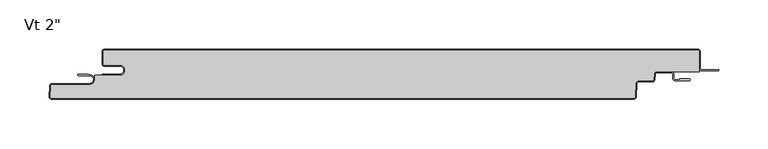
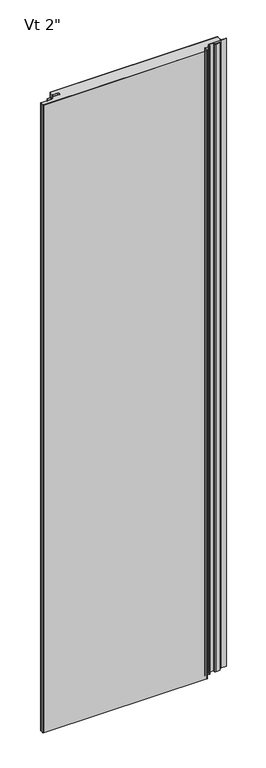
"""IFC4 building model written with IfcOpenShell, lengths in millimetres: plate geometry."""

from ifc_helpers import new_model, si_unit, point, frame, frame_2d, origin, origin_with_axes, place, context, project, spatial, polyline, circle_curve, ellipse_curve, trimmed, segment, composite_curve, outline, extrude, source, transform, mapped, element, save
from ifc_brep_helpers import plane_surface, cylinder_surface, revolved_surface, extruded_surface, advanced_brep


def plate_8a14e245(model_context):
    return source(origin(), model_context, "Body", "SolidModel", [
        extrude(outline(composite_curve([segment(trimmed(circle_curve(frame_2d((259.7683457, -25.4)), 2.5875), [point((259.7683457, -22.8125))], [point((257.1843918, -25.2645807))], True, "CARTESIAN"), True, "CONTINUOUS"), segment(polyline([(257.1843918, -25.2645807), (256.8823155, -31.028539)]), True, "CONTINUOUS"), segment(trimmed(circle_curve(frame_2d((255.5029585, -30.95625)), 1.38125), [point((256.8823155, -31.028539))], [point((255.5029585, -32.3375))], False, "CARTESIAN"), True, "CONTINUOUS"), segment(polyline([(255.5029585, -32.3375), (241.3323847, -32.3375)]), True, "CONTINUOUS"), segment(trimmed(circle_curve(frame_2d((241.3323847, -34.925)), 2.5875), [point((241.3323847, -32.3375))], [point((238.7484307, -34.7895807))], True, "CARTESIAN"), True, "CONTINUOUS"), segment(polyline([(238.7484307, -34.7895807), (238.0303677, -48.491039)]), True, "CONTINUOUS"), segment(trimmed(circle_curve(frame_2d((236.6510107, -48.41875)), 1.38125), [point((238.0303677, -48.491039))], [point((236.6510107, -49.8))], False, "CARTESIAN"), True, "CONTINUOUS"), segment(polyline([(236.6510107, -49.8), (-355.4656861, -49.8)]), True, "CONTINUOUS"), segment(trimmed(circle_curve(frame_2d((-355.4656861, -48.41875)), 1.38125), [point((-355.4656861, -49.8))], [point((-356.8450431, -48.346461))], False, "CARTESIAN"), True, "CONTINUOUS"), segment(polyline([(-356.8450431, -48.346461), (-356.2626617, -37.233961)]), True, "CONTINUOUS"), segment(trimmed(circle_curve(frame_2d((-354.8833046, -37.30625)), 1.38125), [point((-356.2626617, -37.233961))], [point((-354.8833046, -35.925))], False, "CARTESIAN"), True, "CONTINUOUS"), segment(polyline([(-354.8833046, -35.925), (-316.7, -35.925)]), True, "CONTINUOUS"), segment(trimmed(circle_curve(frame_2d((-316.7, -30.95625)), 4.96875), [point((-316.7, -35.925))], [point((-311.73125, -30.95625))], True, "CARTESIAN"), True, "CONTINUOUS"), segment(polyline([(-311.73125, -30.95625), (-311.73125, -26.4), (-285.74375, -26.4)]), True, "CONTINUOUS"), segment(trimmed(circle_curve(frame_2d((-285.74375, -21.43125)), 4.96875), [point((-285.74375, -26.4))], [point((-285.74375, -16.4625))], True, "CARTESIAN"), True, "CONTINUOUS"), segment(polyline([(-285.74375, -16.4625), (-301.61875, -16.4625)]), True, "CONTINUOUS"), segment(trimmed(circle_curve(frame_2d((-301.61875, -15.08125)), 1.38125), [point((-301.61875, -16.4625))], [point((-303.0, -15.08125))], False, "CARTESIAN"), True, "CONTINUOUS"), segment(polyline([(-303.0, -15.08125), (-303.0, -2.38125)]), True, "CONTINUOUS"), segment(trimmed(circle_curve(frame_2d((-301.61875, -2.38125)), 1.38125), [point((-303.0, -2.38125))], [point((-301.61875, -1.0))], False, "CARTESIAN"), True, "CONTINUOUS"), segment(polyline([(-301.61875, -1.0), (301.63125, -1.0)]), True, "CONTINUOUS"), segment(trimmed(circle_curve(frame_2d((301.63125, -2.38125)), 1.38125), [point((301.63125, -1.0))], [point((303.0125, -2.38125))], False, "CARTESIAN"), True, "CONTINUOUS"), segment(polyline([(303.0125, -2.38125), (303.0125, -22.8125), (259.7683457, -22.8125)]), True, "CONTINUOUS")], self_intersect=False)), origin_with_axes(), (0.0, 0.0, 1.0), 2400.0),
        extrude(outline(composite_curve([segment(polyline([(-304.0, -25.4), (-285.74375, -25.4)]), True, "CONTINUOUS"), segment(trimmed(circle_curve(frame_2d((-285.74375, -21.43125)), 3.96875), [point((-285.74375, -25.4))], [point((-285.74375, -17.4625))], True, "CARTESIAN"), True, "CONTINUOUS"), segment(polyline([(-285.74375, -17.4625), (-301.61875, -17.4625)]), True, "CONTINUOUS"), segment(trimmed(circle_curve(frame_2d((-301.61875, -15.08125)), 2.38125), [point((-301.61875, -17.4625))], [point((-304.0, -15.08125))], False, "CARTESIAN"), True, "CONTINUOUS"), segment(polyline([(-304.0, -15.08125), (-304.0, -2.38125)]), True, "CONTINUOUS"), segment(trimmed(circle_curve(frame_2d((-301.61875, -2.38125)), 2.38125), [point((-304.0, -2.38125))], [point((-301.61875, 0.0))], False, "CARTESIAN"), True, "CONTINUOUS"), segment(polyline([(-301.61875, 0.0), (301.63125, 0.0)]), True, "CONTINUOUS"), segment(trimmed(circle_curve(frame_2d((301.63125, -2.38125)), 2.38125), [point((301.63125, 0.0))], [point((304.0125, -2.38125))], False, "CARTESIAN"), True, "CONTINUOUS"), segment(polyline([(304.0125, -2.38125), (304.0125, -19.446875)]), True, "CONTINUOUS"), segment(trimmed(circle_curve(frame_2d((305.6, -19.446875)), 1.5875), [point((304.0125, -19.446875))], [point((305.6, -21.034375))], True, "CARTESIAN"), True, "CONTINUOUS"), segment(polyline([(305.6, -21.034375), (323.0625, -21.034375), (323.0625, -22.034375), (305.6, -22.034375)]), True, "CONTINUOUS"), segment(trimmed(circle_curve(frame_2d((305.6, -19.446875)), 2.5875), [point((305.6, -22.034375))], [point((303.0125, -19.446875))], False, "CARTESIAN"), True, "CONTINUOUS"), segment(polyline([(303.0125, -19.446875), (303.0125, -2.38125)]), True, "CONTINUOUS"), segment(trimmed(circle_curve(frame_2d((301.63125, -2.38125)), 1.38125), [point((303.0125, -2.38125))], [point((301.63125, -1.0))], True, "CARTESIAN"), True, "CONTINUOUS"), segment(polyline([(301.63125, -1.0), (-301.61875, -1.0)]), True, "CONTINUOUS"), segment(trimmed(circle_curve(frame_2d((-301.61875, -2.38125)), 1.38125), [point((-301.61875, -1.0))], [point((-303.0, -2.38125))], True, "CARTESIAN"), True, "CONTINUOUS"), segment(polyline([(-303.0, -2.38125), (-303.0, -15.08125)]), True, "CONTINUOUS"), segment(trimmed(circle_curve(frame_2d((-301.61875, -15.08125)), 1.38125), [point((-303.0, -15.08125))], [point((-301.61875, -16.4625))], True, "CARTESIAN"), True, "CONTINUOUS"), segment(polyline([(-301.61875, -16.4625), (-285.74375, -16.4625)]), True, "CONTINUOUS"), segment(trimmed(circle_curve(frame_2d((-285.74375, -21.43125)), 4.96875), [point((-285.74375, -16.4625))], [point((-285.74375, -26.4))], False, "CARTESIAN"), True, "CONTINUOUS"), segment(polyline([(-285.74375, -26.4), (-304.0, -26.4), (-304.0, -25.4)]), True, "CONTINUOUS")], self_intersect=False)), origin_with_axes(), (0.0, 0.0, 1.0), 2400.0),
        advanced_brep(
        [(-328.0252049, -25.4, 2400.0), (-328.0252049, -26.9875, 2400.0), (-316.7142674, -26.9875, 2400.0), (-316.7142674, -34.925, 2400.0), (-354.8975721, -34.925, 2400.0), (-357.2755586, -37.181625, 2400.0), (-357.8579401, -48.294125, 2400.0), (-355.4799535, -50.8, 2400.0), (236.6510107, -50.8, 2400.0), (239.0289973, -48.543375, 2400.0), (239.7470603, -34.8419167, 2400.0), (241.3323847, -33.3375, 2400.0), (255.4886911, -33.3375, 2400.0), (257.8666776, -31.080875, 2400.0), (258.1687539, -25.3169167, 2400.0), (259.7540783, -23.8125, 2400.0), (274.6294826, -23.8125, 2400.0), (276.2169826, -25.4, 2400.0), (276.2169826, -29.5671875, 2400.0), (278.5982326, -31.9484375, 2400.0), (293.0898532, -31.9484375, 2400.0), (293.0898532, -30.1546875, 2400.0), (283.3607326, -30.1546875, 2400.0), (283.3607326, -30.9484375, 2400.0), (278.5982326, -30.9484375, 2400.0), (277.2169826, -29.5671875, 2400.0), (277.2169826, -25.4, 2400.0), (274.6294826, -22.8125, 2400.0), (259.7540783, -22.8125, 2400.0), (257.1701244, -25.2645807, 2400.0), (256.8680481, -31.028539, 2400.0), (255.4886911, -32.3375, 2400.0), (241.3323847, -32.3375, 2400.0), (238.7484307, -34.7895807, 2400.0), (238.0303677, -48.491039, 2400.0), (236.6510107, -49.8, 2400.0), (-355.4799535, -49.8, 2400.0), (-356.8593106, -48.346461, 2400.0), (-356.2769291, -37.233961, 2400.0), (-354.8975721, -35.925, 2400.0), (-316.7142674, -35.925, 2400.0), (-316.7142674, -25.9875, 2400.0), (-318.3017674, -26.19375, 2400.0), (-318.3017674, -25.4, 2400.0), (-328.0252049, -25.4, 0.0), (-318.3017674, -25.4, 0.0), (-318.3017674, -26.19375, 0.0), (-316.7142674, -25.9875, 0.0), (-316.7142674, -35.925, 0.0), (-354.8975721, -35.925, 0.0), (-356.2769291, -37.233961, 0.0), (-356.8593106, -48.346461, 0.0), (-355.4799535, -49.8, 0.0), (236.6510107, -49.8, 0.0), (238.0303677, -48.491039, 0.0), (238.7484307, -34.7895807, 0.0), (241.3323847, -32.3375, 0.0), (255.4886911, -32.3375, 0.0), (256.8680481, -31.028539, 0.0), (257.1701244, -25.2645807, 0.0), (259.7540783, -22.8125, 0.0), (274.6294826, -22.8125, 0.0), (277.2169826, -25.4, 0.0), (277.2169826, -29.5671875, 0.0), (278.5982326, -30.9484375, 0.0), (283.3607326, -30.9484375, 0.0), (283.3607326, -30.1546875, 0.0), (293.0898532, -30.1546875, 0.0), (293.0898532, -31.9484375, 0.0), (278.5982326, -31.9484375, 0.0), (276.2169826, -29.5671875, 0.0), (276.2169826, -25.4, 0.0), (274.6294826, -23.8125, 0.0), (259.7540783, -23.8125, 0.0), (258.1687539, -25.3169167, 0.0), (257.8666776, -31.080875, 0.0), (255.4886911, -33.3375, 0.0), (241.3323847, -33.3375, 0.0), (239.7470603, -34.8419167, 0.0), (239.0289973, -48.543375, 0.0), (236.6510107, -50.8, 0.0), (-355.4799535, -50.8, 0.0), (-357.8579401, -48.294125, 0.0), (-357.2755586, -37.181625, 0.0), (-354.8975721, -34.925, 0.0), (-316.7142674, -34.925, 0.0), (-316.7142674, -26.9875, 0.0), (-328.0252049, -26.9875, 0.0)],
        [
            (0, 1, circle_curve(frame((-328.0252049, -26.19375, 2400.0), z_axis=(0.0, 0.0, 1.0), x_axis=(1.0, 0.0, 0.0)), 0.79375)),
            (1, 2),
            (2, 3, circle_curve(frame((-316.7142674, -30.95625, 2400.0), z_axis=(0.0, 0.0, -1.0), x_axis=(1.0, 0.0, 0.0)), 3.96875)),
            (3, 4),
            (4, 5, circle_curve(frame((-354.8975721, -37.30625, 2400.0), z_axis=(0.0, 0.0, 1.0), x_axis=(1.0, 0.0, 0.0)), 2.38125)),
            (5, 6),
            (6, 7, circle_curve(frame((-355.4799535, -48.41875, 2400.0), z_axis=(0.0, 0.0, 1.0), x_axis=(1.0, 0.0, 0.0)), 2.38125)),
            (7, 8),
            (8, 9, circle_curve(frame((236.6510107, -48.41875, 2400.0), z_axis=(0.0, 0.0, 1.0), x_axis=(1.0, 0.0, 0.0)), 2.38125)),
            (9, 10),
            (10, 11, circle_curve(frame((241.3323847, -34.925, 2400.0), z_axis=(0.0, 0.0, -1.0), x_axis=(1.0, 0.0, 0.0)), 1.5875)),
            (11, 12),
            (12, 13, circle_curve(frame((255.4886911, -30.95625, 2400.0), z_axis=(0.0, 0.0, 1.0), x_axis=(1.0, 0.0, 0.0)), 2.38125)),
            (13, 14),
            (14, 15, circle_curve(frame((259.7540783, -25.4, 2400.0), z_axis=(0.0, 0.0, -1.0), x_axis=(1.0, 0.0, 0.0)), 1.5875)),
            (15, 16),
            (16, 17, circle_curve(frame((274.6294826, -25.4, 2400.0), z_axis=(0.0, 0.0, -1.0), x_axis=(1.0, 0.0, 0.0)), 1.5875)),
            (17, 18),
            (18, 19, circle_curve(frame((278.5982326, -29.5671875, 2400.0), z_axis=(0.0, 0.0, 1.0), x_axis=(1.0, 0.0, 0.0)), 2.38125)),
            (19, 20),
            (20, 21, ellipse_curve(frame((293.0898532, -31.0515625, 2400.0), z_axis=(0.0, 0.0, 1.0), x_axis=(0.0, 1.0, 0.0)), 0.896875, 0.7852275)),
            (21, 22),
            (22, 23),
            (23, 24),
            (24, 25, circle_curve(frame((278.5982326, -29.5671875, 2400.0), z_axis=(0.0, 0.0, -1.0), x_axis=(1.0, 0.0, 0.0)), 1.38125)),
            (25, 26),
            (26, 27, circle_curve(frame((274.6294826, -25.4, 2400.0), z_axis=(0.0, 0.0, 1.0), x_axis=(1.0, 0.0, 0.0)), 2.5875)),
            (27, 28),
            (28, 29, circle_curve(frame((259.7540783, -25.4, 2400.0), z_axis=(0.0, 0.0, 1.0), x_axis=(1.0, 0.0, 0.0)), 2.5875)),
            (29, 30),
            (30, 31, circle_curve(frame((255.4886911, -30.95625, 2400.0), z_axis=(0.0, 0.0, -1.0), x_axis=(1.0, 0.0, 0.0)), 1.38125)),
            (31, 32),
            (32, 33, circle_curve(frame((241.3323847, -34.925, 2400.0), z_axis=(0.0, 0.0, 1.0), x_axis=(1.0, 0.0, 0.0)), 2.5875)),
            (33, 34),
            (34, 35, circle_curve(frame((236.6510107, -48.41875, 2400.0), z_axis=(0.0, 0.0, -1.0), x_axis=(1.0, 0.0, 0.0)), 1.38125)),
            (35, 36),
            (36, 37, circle_curve(frame((-355.4799535, -48.41875, 2400.0), z_axis=(0.0, 0.0, -1.0), x_axis=(1.0, 0.0, 0.0)), 1.38125)),
            (37, 38),
            (38, 39, circle_curve(frame((-354.8975721, -37.30625, 2400.0), z_axis=(0.0, 0.0, -1.0), x_axis=(1.0, 0.0, 0.0)), 1.38125)),
            (39, 40),
            (40, 41, circle_curve(frame((-316.7142674, -30.95625, 2400.0), z_axis=(0.0, 0.0, 1.0), x_axis=(1.0, 0.0, 0.0)), 4.96875)),
            (41, 42),
            (42, 43),
            (43, 0),
            (44, 45),
            (45, 46),
            (46, 47),
            (47, 48, circle_curve(frame((-316.7142674, -30.95625, 0.0), z_axis=(0.0, 0.0, -1.0), x_axis=(1.0, 0.0, 0.0)), 4.96875)),
            (48, 49),
            (49, 50, circle_curve(frame((-354.8975721, -37.30625, 0.0), z_axis=(0.0, 0.0, 1.0), x_axis=(1.0, 0.0, 0.0)), 1.38125)),
            (50, 51),
            (51, 52, circle_curve(frame((-355.4799535, -48.41875, 0.0), z_axis=(0.0, 0.0, 1.0), x_axis=(1.0, 0.0, 0.0)), 1.38125)),
            (52, 53),
            (53, 54, circle_curve(frame((236.6510107, -48.41875, 0.0), z_axis=(0.0, 0.0, 1.0), x_axis=(1.0, 0.0, 0.0)), 1.38125)),
            (54, 55),
            (55, 56, circle_curve(frame((241.3323847, -34.925, 0.0), z_axis=(0.0, 0.0, -1.0), x_axis=(1.0, 0.0, 0.0)), 2.5875)),
            (56, 57),
            (57, 58, circle_curve(frame((255.4886911, -30.95625, 0.0), z_axis=(0.0, 0.0, 1.0), x_axis=(1.0, 0.0, 0.0)), 1.38125)),
            (58, 59),
            (59, 60, circle_curve(frame((259.7540783, -25.4, 0.0), z_axis=(0.0, 0.0, -1.0), x_axis=(1.0, 0.0, 0.0)), 2.5875)),
            (60, 61),
            (61, 62, circle_curve(frame((274.6294826, -25.4, 0.0), z_axis=(0.0, 0.0, -1.0), x_axis=(1.0, 0.0, 0.0)), 2.5875)),
            (62, 63),
            (63, 64, circle_curve(frame((278.5982326, -29.5671875, 0.0), z_axis=(0.0, 0.0, 1.0), x_axis=(1.0, 0.0, 0.0)), 1.38125)),
            (64, 65),
            (65, 66),
            (66, 67),
            (67, 68, ellipse_curve(frame((293.0898532, -31.0515625, 0.0), z_axis=(0.0, 0.0, -1.0), x_axis=(0.0, 1.0, 0.0)), 0.896875, 0.7852275)),
            (68, 69),
            (69, 70, circle_curve(frame((278.5982326, -29.5671875, 0.0), z_axis=(0.0, 0.0, -1.0), x_axis=(1.0, 0.0, 0.0)), 2.38125)),
            (70, 71),
            (71, 72, circle_curve(frame((274.6294826, -25.4, 0.0), z_axis=(0.0, 0.0, 1.0), x_axis=(1.0, 0.0, 0.0)), 1.5875)),
            (72, 73),
            (73, 74, circle_curve(frame((259.7540783, -25.4, 0.0), z_axis=(0.0, 0.0, 1.0), x_axis=(1.0, 0.0, 0.0)), 1.5875)),
            (74, 75),
            (75, 76, circle_curve(frame((255.4886911, -30.95625, 0.0), z_axis=(0.0, 0.0, -1.0), x_axis=(1.0, 0.0, 0.0)), 2.38125)),
            (76, 77),
            (77, 78, circle_curve(frame((241.3323847, -34.925, 0.0), z_axis=(0.0, 0.0, 1.0), x_axis=(1.0, 0.0, 0.0)), 1.5875)),
            (78, 79),
            (79, 80, circle_curve(frame((236.6510107, -48.41875, 0.0), z_axis=(0.0, 0.0, -1.0), x_axis=(1.0, 0.0, 0.0)), 2.38125)),
            (80, 81),
            (81, 82, circle_curve(frame((-355.4799535, -48.41875, 0.0), z_axis=(0.0, 0.0, -1.0), x_axis=(1.0, 0.0, 0.0)), 2.38125)),
            (82, 83),
            (83, 84, circle_curve(frame((-354.8975721, -37.30625, 0.0), z_axis=(0.0, 0.0, -1.0), x_axis=(1.0, 0.0, 0.0)), 2.38125)),
            (84, 85),
            (85, 86, circle_curve(frame((-316.7142674, -30.95625, 0.0), z_axis=(0.0, 0.0, 1.0), x_axis=(1.0, 0.0, 0.0)), 3.96875)),
            (86, 87),
            (87, 44, circle_curve(frame((-328.0252049, -26.19375, 0.0), z_axis=(0.0, 0.0, -1.0), x_axis=(1.0, 0.0, 0.0)), 0.79375)),
            (43, 45),
            (44, 0),
            (87, 1),
            (86, 2),
            (85, 3),
            (84, 4),
            (83, 5),
            (82, 6),
            (81, 7),
            (80, 8),
            (79, 9),
            (78, 10),
            (77, 11),
            (76, 12),
            (75, 13),
            (74, 14),
            (73, 15),
            (38, 50),
            (49, 39),
            (37, 51),
            (36, 52),
            (35, 53),
            (34, 54),
            (33, 55),
            (32, 56),
            (31, 57),
            (30, 58),
            (29, 59),
            (28, 60),
            (23, 65),
            (64, 24),
            (63, 25),
            (62, 26),
            (72, 16),
            (71, 17),
            (70, 18),
            (69, 19),
            (68, 20),
            (27, 61),
            (48, 40),
            (47, 41),
            (42, 46),
            (22, 66),
            (21, 67),
        ],
        [
            plane_surface(frame((0.00625, -50.8, 2400.0), z_axis=(0.0, 0.0, 1.0), x_axis=(0.0, -1.0, 0.0))),
            plane_surface(frame((0.00625, -50.8, 0.0), z_axis=(0.0, 0.0, -1.0), x_axis=(0.0, -1.0, 0.0))),
            plane_surface(frame((-328.0252049, -25.4, 2400.0), z_axis=(0.0, 1.0, 0.0), x_axis=(0.0, 0.0, -1.0))),
            cylinder_surface(frame((-328.0252049, -26.19375, 2400.0), z_axis=(0.0, 0.0, 1.0), x_axis=(1.0, 0.0, 0.0)), 0.79375),
            plane_surface(frame((-316.7142674, -26.9875, 2400.0), z_axis=(0.0, -1.0, 0.0), x_axis=(0.0, 0.0, -1.0))),
            revolved_surface(polyline([(-312.7455174, -30.95625, 0.0), (-312.7455174, -30.95625, 2400.0)]), (-316.7142674, -30.95625, 2400.0), (0.0, 0.0, -1.0)),
            plane_surface(frame((-354.8975721, -34.925, 2400.0), z_axis=(0.0, 1.0, 0.0), x_axis=(0.0, 0.0, -1.0))),
            cylinder_surface(frame((-354.8975721, -37.30625, 2400.0), z_axis=(0.0, 0.0, 1.0), x_axis=(1.0, 0.0, 0.0)), 2.38125),
            plane_surface(frame((-357.8579401, -48.294125, 2400.0), z_axis=(-0.9986295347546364, 0.05233595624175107, 0.0), x_axis=(0.0, 0.0, -1.0))),
            cylinder_surface(frame((-355.4799535, -48.41875, 2400.0), z_axis=(0.0, 0.0, 1.0), x_axis=(1.0, 0.0, 0.0)), 2.38125),
            plane_surface(frame((236.6510107, -50.8, 2400.0), z_axis=(0.0, -1.0, 0.0), x_axis=(0.0, 0.0, -1.0))),
            cylinder_surface(frame((236.6510107, -48.41875, 2400.0), z_axis=(0.0, 0.0, 1.0), x_axis=(1.0, 0.0, 0.0)), 2.38125),
            plane_surface(frame((239.7470603, -34.8419167, 2400.0), z_axis=(0.9986295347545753, -0.05233595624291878, 0.0), x_axis=(0.0, 0.0, -1.0))),
            revolved_surface(polyline([(242.9198847, -34.925, 0.0), (242.9198847, -34.925, 2400.0)]), (241.3323847, -34.925, 2400.0), (0.0, 0.0, -1.0)),
            plane_surface(frame((255.4886911, -33.3375, 2400.0), z_axis=(0.0, -1.0, 0.0), x_axis=(0.0, 0.0, -1.0))),
            cylinder_surface(frame((255.4886911, -30.95625, 2400.0), z_axis=(0.0, 0.0, 1.0), x_axis=(1.0, 0.0, 0.0)), 2.38125),
            plane_surface(frame((258.1687539, -25.3169167, 2400.0), z_axis=(0.9986295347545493, -0.052335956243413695, 0.0), x_axis=(0.0, 0.0, -1.0))),
            revolved_surface(polyline([(261.3415783, -25.4, 0.0), (261.3415783, -25.4, 2400.0)]), (259.7540783, -25.4, 2400.0), (0.0, 0.0, -1.0)),
            revolved_surface(polyline([(-353.51632209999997, -37.30625, 0.0), (-353.51632209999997, -37.30625, 2400.0)]), (-354.8975721, -37.30625, 2400.0), (0.0, 0.0, -1.0)),
            plane_surface(frame((-356.2769291, -37.233961, 2400.0), z_axis=(0.9986295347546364, -0.05233595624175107, 0.0), x_axis=(0.0, 0.0, -1.0))),
            revolved_surface(polyline([(-354.0987035, -48.41875, 0.0), (-354.0987035, -48.41875, 2400.0)]), (-355.4799535, -48.41875, 2400.0), (0.0, 0.0, -1.0)),
            plane_surface(frame((-355.4799535, -49.8, 2400.0), z_axis=(0.0, 1.0, 0.0), x_axis=(0.0, 0.0, -1.0))),
            revolved_surface(polyline([(238.0322607, -48.41875, 0.0), (238.0322607, -48.41875, 2400.0)]), (236.6510107, -48.41875, 2400.0), (0.0, 0.0, -1.0)),
            plane_surface(frame((238.0303677, -48.491039, 2400.0), z_axis=(-0.9986295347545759, 0.052335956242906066, 0.0), x_axis=(0.0, 0.0, -1.0))),
            cylinder_surface(frame((241.3323847, -34.925, 2400.0), z_axis=(0.0, 0.0, 1.0), x_axis=(1.0, 0.0, 0.0)), 2.5875),
            plane_surface(frame((241.3323847, -32.3375, 2400.0), z_axis=(0.0, 1.0, 0.0), x_axis=(0.0, 0.0, -1.0))),
            revolved_surface(polyline([(256.8699411, -30.95625, 0.0), (256.8699411, -30.95625, 2400.0)]), (255.4886911, -30.95625, 2400.0), (0.0, 0.0, -1.0)),
            plane_surface(frame((256.8680481, -31.028539, 2400.0), z_axis=(-0.998629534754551, 0.05233595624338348, 0.0), x_axis=(0.0, 0.0, -1.0))),
            cylinder_surface(frame((259.7540783, -25.4, 2400.0), z_axis=(0.0, 0.0, 1.0), x_axis=(1.0, 0.0, 0.0)), 2.5875),
            plane_surface(frame((278.5982326, -30.9484375, 2400.0), z_axis=(0.0, 1.0, 0.0), x_axis=(0.0, 0.0, -1.0))),
            revolved_surface(polyline([(279.97948260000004, -29.5671875, 0.0), (279.97948260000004, -29.5671875, 2400.0)]), (278.5982326, -29.5671875, 2400.0), (0.0, 0.0, -1.0)),
            plane_surface(frame((277.2169826, -25.4, 2400.0), z_axis=(1.0, 0.0, 0.0), x_axis=(0.0, 0.0, -1.0))),
            plane_surface(frame((274.6294826, -23.8125, 2400.0), z_axis=(0.0, -1.0, 0.0), x_axis=(0.0, 0.0, -1.0))),
            revolved_surface(polyline([(276.2169826, -25.4, 0.0), (276.2169826, -25.4, 2400.0)]), (274.6294826, -25.4, 2400.0), (0.0, 0.0, -1.0)),
            plane_surface(frame((276.2169826, -29.5671875, 2400.0), z_axis=(-1.0, 0.0, 0.0), x_axis=(0.0, 0.0, -1.0))),
            cylinder_surface(frame((278.5982326, -29.5671875, 2400.0), z_axis=(0.0, 0.0, 1.0), x_axis=(1.0, 0.0, 0.0)), 2.38125),
            plane_surface(frame((293.0898532, -31.9484375, 2400.0), z_axis=(0.0, -1.0, 0.0), x_axis=(0.0, 0.0, -1.0))),
            plane_surface(frame((259.7540783, -22.8125, 2400.0), z_axis=(0.0, 1.0, 0.0), x_axis=(0.0, 0.0, -1.0))),
            cylinder_surface(frame((274.6294826, -25.4, 2400.0), z_axis=(0.0, 0.0, 1.0), x_axis=(1.0, 0.0, 0.0)), 2.5875),
            plane_surface(frame((-316.7142674, -35.925, 2400.0), z_axis=(0.0, -1.0, 0.0), x_axis=(0.0, 0.0, -1.0))),
            cylinder_surface(frame((-316.7142674, -30.95625, 2400.0), z_axis=(0.0, 0.0, 1.0), x_axis=(1.0, 0.0, 0.0)), 4.96875),
            plane_surface(frame((-318.3017674, -25.4, 2400.0), z_axis=(1.0, 0.0, 0.0), x_axis=(0.0, 0.0, -1.0))),
            plane_surface(frame((-318.3017674, -26.19375, 2400.0), z_axis=(-0.12883844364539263, 0.9916655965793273, 0.0), x_axis=(0.0, 0.0, -1.0))),
            plane_surface(frame((283.3607326, -30.9484375, 2400.0), z_axis=(-1.0, 0.0, 0.0), x_axis=(0.0, 0.0, -1.0))),
            plane_surface(frame((283.3607326, -30.1546875, 2400.0), z_axis=(0.0, 1.0, 0.0), x_axis=(0.0, 0.0, -1.0))),
            extruded_surface(trimmed(ellipse_curve(frame((293.0898532, -31.0515625, 2400.0), z_axis=(0.0, 0.0, -1.0), x_axis=(0.0, 1.0, 0.0)), 0.896875, 0.7852275), [point((293.0898532, -30.1546875, 2400.0))], [point((293.0898532, -31.9484375, 2400.0))], True, "CARTESIAN"), (0.0, 0.0, -2400.0), 2400.0),
        ],
        [
            (0, [[1, 2, 3, 4, 5, 6, 7, 8, 9, 10, 11, 12, 13, 14, 15, 16, 17, 18, 19, 20, 21, 22, 23, 24, 25, 26, 27, 28, 29, 30, 31, 32, 33, 34, 35, 36, 37, 38, 39, 40, 41, 42, 43, 44]]),
            (1, [[45, 46, 47, 48, 49, 50, 51, 52, 53, 54, 55, 56, 57, 58, 59, 60, 61, 62, 63, 64, 65, 66, 67, 68, 69, 70, 71, 72, 73, 74, 75, 76, 77, 78, 79, 80, 81, 82, 83, 84, 85, 86, 87, 88]]),
            (2, [[89, -45, 90, -44]]),
            (3, [[-90, -88, 91, -1]]),
            (4, [[-91, -87, 92, -2]]),
            (5, [[-92, -86, 93, -3]]),
            (6, [[-93, -85, 94, -4]]),
            (7, [[-94, -84, 95, -5]]),
            (8, [[-95, -83, 96, -6]]),
            (9, [[-96, -82, 97, -7]]),
            (10, [[-97, -81, 98, -8]]),
            (11, [[-98, -80, 99, -9]]),
            (12, [[-99, -79, 100, -10]]),
            (13, [[-100, -78, 101, -11]]),
            (14, [[-101, -77, 102, -12]]),
            (15, [[-102, -76, 103, -13]]),
            (16, [[-103, -75, 104, -14]]),
            (17, [[-104, -74, 105, -15]]),
            (18, [[106, -50, 107, -39]]),
            (19, [[108, -51, -106, -38]]),
            (20, [[109, -52, -108, -37]]),
            (21, [[110, -53, -109, -36]]),
            (22, [[111, -54, -110, -35]]),
            (23, [[112, -55, -111, -34]]),
            (24, [[113, -56, -112, -33]]),
            (25, [[114, -57, -113, -32]]),
            (26, [[115, -58, -114, -31]]),
            (27, [[116, -59, -115, -30]]),
            (28, [[117, -60, -116, -29]]),
            (29, [[118, -65, 119, -24]]),
            (30, [[-119, -64, 120, -25]]),
            (31, [[-120, -63, 121, -26]]),
            (32, [[-105, -73, 122, -16]]),
            (33, [[-122, -72, 123, -17]]),
            (34, [[-123, -71, 124, -18]]),
            (35, [[-124, -70, 125, -19]]),
            (36, [[-125, -69, 126, -20]]),
            (37, [[127, -61, -117, -28]]),
            (38, [[-121, -62, -127, -27]]),
            (39, [[-107, -49, 128, -40]]),
            (40, [[-128, -48, 129, -41]]),
            (41, [[130, -46, -89, -43]]),
            (42, [[-129, -47, -130, -42]]),
            (43, [[131, -66, -118, -23]]),
            (44, [[132, -67, -131, -22]]),
            (45, [[-126, -68, -132, -21]]),
        ],
    ),
    ])


if __name__ == "__main__":
    model = new_model("IFC4")
    model_context = context("Model", 3, world=origin())
    ifc_project = project(units=[si_unit("LENGTHUNIT", "METRE", prefix="MILLI")], contexts=[model_context])
    site = spatial("IfcSite", under=ifc_project)
    building = spatial("IfcBuilding", under=site)
    placement = place(None, origin())
    plate_shape = plate_8a14e245(model_context)
    element("IfcPlate", 1, ObjectType="KIP-24-DWHR-R19-CP-Vt-F : Vt 2\"", at=placement, inside=building, context=model_context, shape_type="MappedRepresentation", body=[
        mapped(plate_shape, transform((0.0, 0.0, 0.0), x_axis=(1.0, 0.0, 0.0), y_axis=(0.0, 1.0, 0.0), z_axis=(0.0, 0.0, 1.0))),
    ])
    save(model, "model.ifc")
